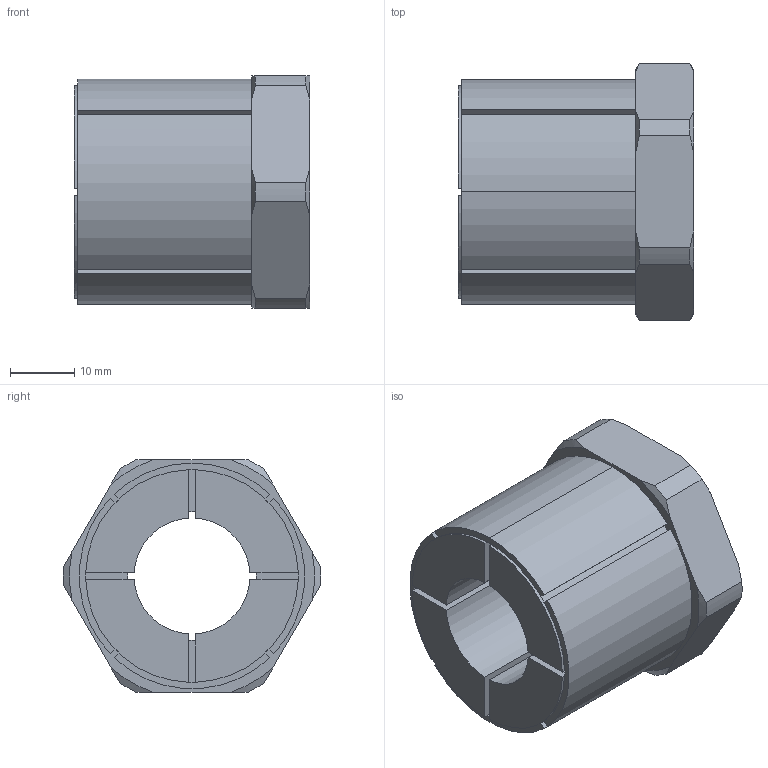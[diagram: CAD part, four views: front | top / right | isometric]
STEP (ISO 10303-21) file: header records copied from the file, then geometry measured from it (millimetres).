
FILE_DESCRIPTION (( 'STEP AP203' ), '1' );
FILE_NAME ('KBS 58 - 18 x 35.STEP', '2015-07-05T19:56:54', ( '' ), ( '' ), 'SwSTEP 2.0', 'SolidWorks 2010', '' );
FILE_SCHEMA (( 'CONFIG_CONTROL_DESIGN' ));
Length unit declared in the file: millimetre
Products named in the file (1): KBS 58 - 18 x 35
Bounding box: 36.5 x 39.99 x 36 mm (x, y, z)
Volume: 25924.1 mm3; surface area: 10248.7 mm2
Topology: 1 solids, 1 shells, 79 faces, 220 edges, 144 vertices
Faces by surface type: plane 37, cylinder 26, cone 16
Entity records: 2687 total; most frequent: CARTESIAN_POINT 564, ORIENTED_EDGE 440, DIRECTION 428, EDGE_CURVE 220, AXIS2_PLACEMENT_3D 160, VERTEX_POINT 144, LINE 108, VECTOR 108
